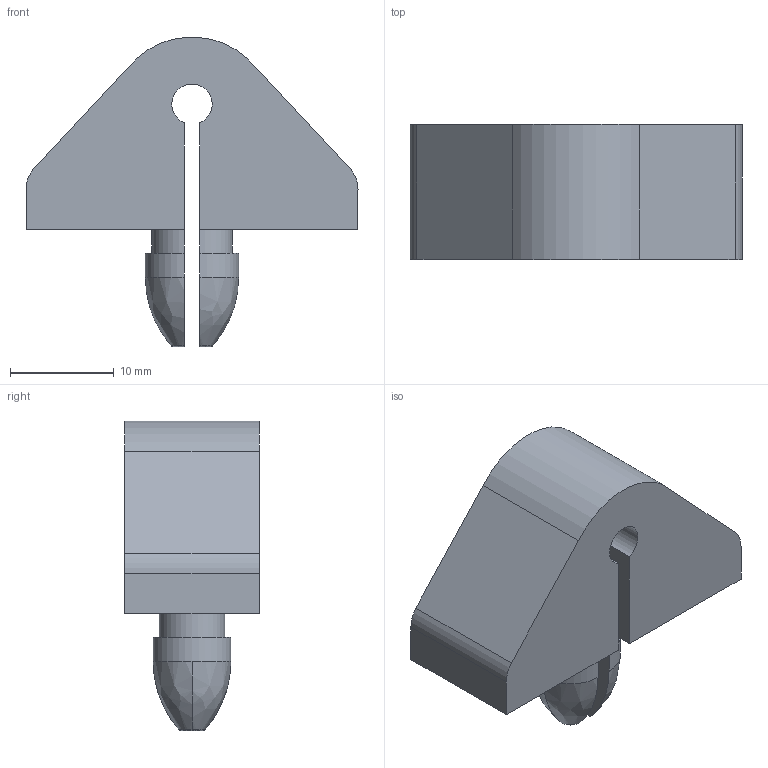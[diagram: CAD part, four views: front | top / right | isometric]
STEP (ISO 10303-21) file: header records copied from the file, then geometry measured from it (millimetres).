
FILE_DESCRIPTION (( 'STEP AP203' ), '1' );
FILE_NAME ('F043101.STEP', '2017-03-22T13:00:49', ( 'Localadmin' ), ( 'Microsoft' ), 'SwSTEP 2.0', 'SolidWorks 2016', '' );
FILE_SCHEMA (( 'CONFIG_CONTROL_DESIGN' ));
Length unit declared in the file: millimetre
Products named in the file (1): F043101
Bounding box: 32 x 13 x 29.81 mm (x, y, z)
Volume: 5476.2 mm3; surface area: 2635.9 mm2
Topology: 1 solids, 1 shells, 34 faces, 98 edges, 62 vertices
Faces by surface type: plane 14, bspline 12, cylinder 8
Entity records: 1383 total; most frequent: CARTESIAN_POINT 499, ORIENTED_EDGE 188, DIRECTION 148, EDGE_CURVE 94, VERTEX_POINT 62, AXIS2_PLACEMENT_3D 51, VECTOR 46, LINE 46
